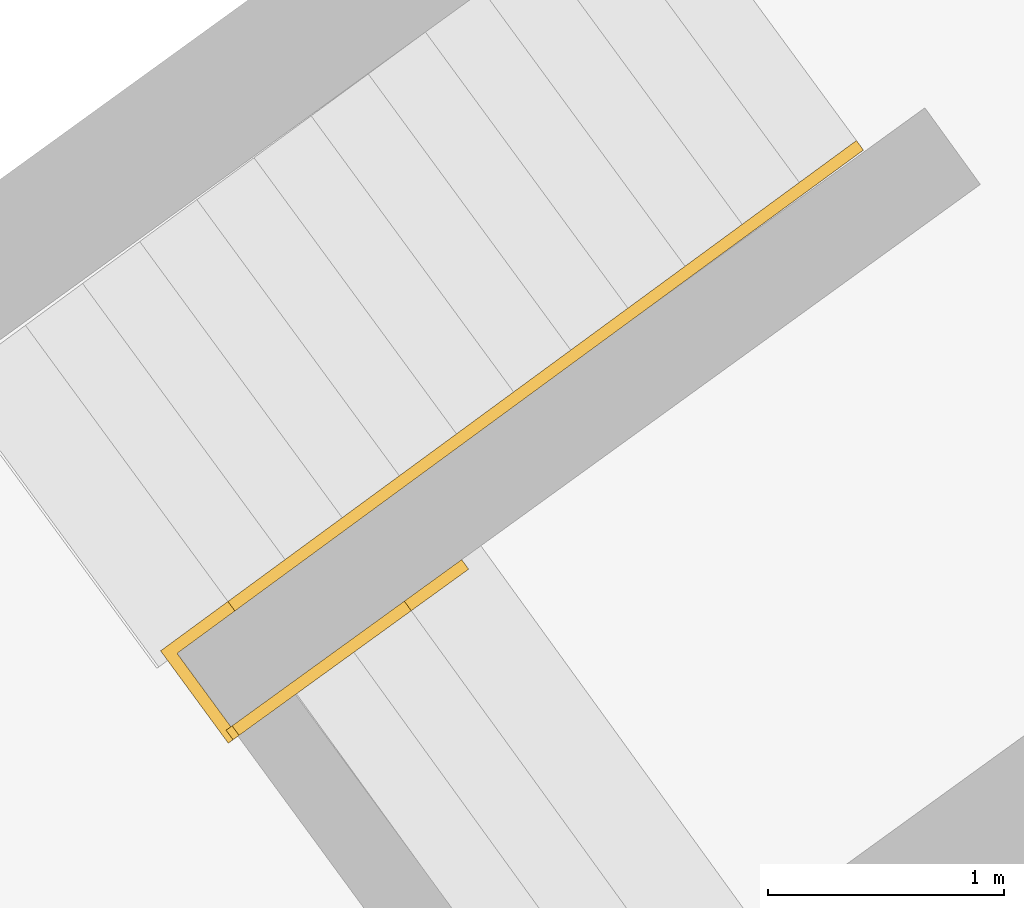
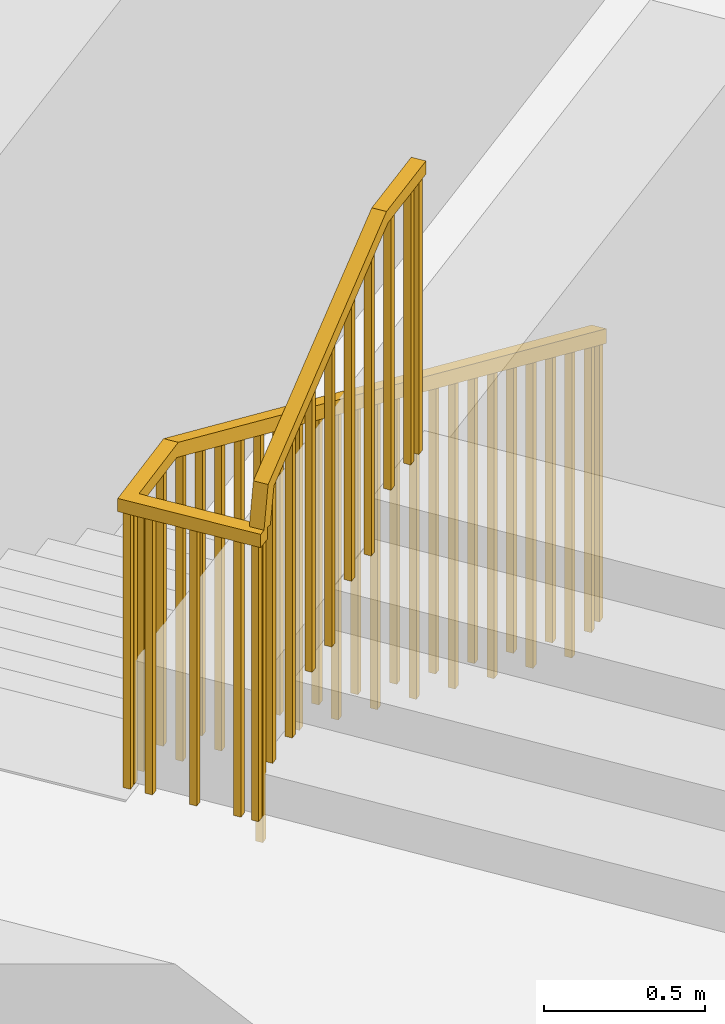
# One storey, part 112 of 112: 1 railing, 1 element without a shape of its own.
"""IFC2X3 building model written with IfcOpenShell, lengths in millimetres."""

from ifc_helpers import new_model, entity, si_unit, converted_unit, derived_unit, direction, frame, origin, place, context, subcontext, project, spatial, faceted_brep, material, element, aggregate, save


model = new_model("IFC2X3")

# Units and contexts
model_context = context("Model", 3, precision=0.01, world=origin(), true_north=direction((6.123031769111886e-17, 1.0)))
body_context = subcontext(model_context, "Body", "Model", "MODEL_VIEW")
ifc_project = project(units=[si_unit("LENGTHUNIT", "METRE", prefix="MILLI"), si_unit("AREAUNIT", "SQUARE_METRE"), si_unit("VOLUMEUNIT", "CUBIC_METRE"), converted_unit("PLANEANGLEUNIT", "DEGREE", entity("IfcRatioMeasure", 0.017453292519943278), si_unit("PLANEANGLEUNIT", "RADIAN"), dimensions=[0, 0, 0, 0, 0, 0, 0]), si_unit("MASSUNIT", "GRAM", prefix="KILO"), derived_unit("MASSDENSITYUNIT", [(si_unit("MASSUNIT", "GRAM", prefix="KILO"), 1), (si_unit("LENGTHUNIT", "METRE"), -3)]), derived_unit("MOMENTOFINERTIAUNIT", [(si_unit("LENGTHUNIT", "METRE"), 4)]), si_unit("TIMEUNIT", "SECOND"), si_unit("FREQUENCYUNIT", "HERTZ"), si_unit("THERMODYNAMICTEMPERATUREUNIT", "DEGREE_CELSIUS"), derived_unit("THERMALTRANSMITTANCEUNIT", [(si_unit("MASSUNIT", "GRAM", prefix="KILO"), 1), (si_unit("THERMODYNAMICTEMPERATUREUNIT", "KELVIN"), -1), (si_unit("TIMEUNIT", "SECOND"), -3)]), derived_unit("THERMALCONDUCTANCEUNIT", [(si_unit("MASSUNIT", "GRAM", prefix="KILO"), 1), (si_unit("LENGTHUNIT", "METRE"), 1), (si_unit("THERMODYNAMICTEMPERATUREUNIT", "KELVIN"), -1), (si_unit("TIMEUNIT", "SECOND"), -3)]), derived_unit("VOLUMETRICFLOWRATEUNIT", [(si_unit("LENGTHUNIT", "METRE"), 3), (si_unit("TIMEUNIT", "SECOND"), -1)]), derived_unit("MASSFLOWRATEUNIT", [(si_unit("MASSUNIT", "GRAM", prefix="KILO"), 1), (si_unit("TIMEUNIT", "SECOND"), -1)]), derived_unit("ROTATIONALFREQUENCYUNIT", [(si_unit("TIMEUNIT", "SECOND"), -1)]), si_unit("ELECTRICCURRENTUNIT", "AMPERE"), si_unit("ELECTRICVOLTAGEUNIT", "VOLT"), si_unit("POWERUNIT", "WATT"), converted_unit("FORCEUNIT", "KIP", entity("IfcRatioMeasure", 2.088543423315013e-05), si_unit("FORCEUNIT", "NEWTON"), dimensions=[1, 1, -2, 0, 0, 0, 0]), si_unit("ILLUMINANCEUNIT", "LUX"), si_unit("LUMINOUSFLUXUNIT", "LUMEN"), si_unit("LUMINOUSINTENSITYUNIT", "CANDELA"), derived_unit("USERDEFINED", [(si_unit("MASSUNIT", "GRAM", prefix="KILO"), -1), (si_unit("LENGTHUNIT", "METRE"), -2), (si_unit("TIMEUNIT", "SECOND"), 3), (si_unit("LUMINOUSFLUXUNIT", "LUMEN"), 1)]), derived_unit("USERDEFINED", [(si_unit("MASSUNIT", "GRAM", prefix="KILO"), 1), (si_unit("LENGTHUNIT", "METRE"), 3), (si_unit("TIMEUNIT", "SECOND"), -3), (si_unit("ELECTRICCURRENTUNIT", "AMPERE"), -2)]), derived_unit("USERDEFINED", [(si_unit("LENGTHUNIT", "METRE"), 2), (si_unit("TIMEUNIT", "SECOND"), -2)]), derived_unit("SOUNDPOWERUNIT", [(si_unit("MASSUNIT", "GRAM", prefix="KILO"), 1), (si_unit("LENGTHUNIT", "METRE"), 2), (si_unit("TIMEUNIT", "SECOND"), -3)]), derived_unit("SOUNDPRESSUREUNIT", [(si_unit("MASSUNIT", "GRAM", prefix="KILO"), 1), (si_unit("LENGTHUNIT", "METRE"), -1), (si_unit("TIMEUNIT", "SECOND"), -2)]), derived_unit("LINEARVELOCITYUNIT", [(si_unit("LENGTHUNIT", "METRE"), 1), (si_unit("TIMEUNIT", "SECOND"), -1)]), si_unit("PRESSUREUNIT", "PASCAL"), derived_unit("USERDEFINED", [(si_unit("LENGTHUNIT", "METRE"), -2), (si_unit("MASSUNIT", "GRAM", prefix="KILO"), 1), (si_unit("TIMEUNIT", "SECOND"), -2)]), derived_unit("LINEARFORCEUNIT", [(si_unit("MASSUNIT", "GRAM", prefix="KILO"), 1), (si_unit("LENGTHUNIT", "METRE"), 1), (si_unit("TIMEUNIT", "SECOND"), -2), (si_unit("LENGTHUNIT", "METRE"), -1)]), derived_unit("PLANARFORCEUNIT", [(si_unit("MASSUNIT", "GRAM", prefix="KILO"), 1), (si_unit("LENGTHUNIT", "METRE"), 1), (si_unit("TIMEUNIT", "SECOND"), -2), (si_unit("LENGTHUNIT", "METRE"), -2)]), derived_unit("SPECIFICHEATCAPACITYUNIT", [(si_unit("LENGTHUNIT", "METRE"), 2), (si_unit("TIMEUNIT", "SECOND"), -2), (si_unit("THERMODYNAMICTEMPERATUREUNIT", "KELVIN"), -1)]), derived_unit("VAPORPERMEABILITYUNIT", [(si_unit("TIMEUNIT", "SECOND"), 1), (si_unit("LENGTHUNIT", "METRE"), -1)]), derived_unit("DYNAMICVISCOSITYUNIT", [(si_unit("MASSUNIT", "GRAM", prefix="KILO"), 1), (si_unit("LENGTHUNIT", "METRE"), -1), (si_unit("TIMEUNIT", "SECOND"), -1)]), derived_unit("THERMALEXPANSIONCOEFFICIENTUNIT", [(si_unit("THERMODYNAMICTEMPERATUREUNIT", "KELVIN"), -1)])], contexts=[model_context])

# Site, building, storey
site_placement = place(None, frame((0.0, 0.0, 0.0), z_axis=(0.0, 0.0, 1.0), x_axis=(0.8191520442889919, 0.5735764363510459, 0.0)))
site = spatial("IfcSite", under=ifc_project, at=site_placement, Name="Default", CompositionType="ELEMENT")
building_placement = place(site_placement, origin())
building = spatial("IfcBuilding", under=site, at=building_placement, CompositionType="ELEMENT")
storey_placement = place(building_placement, frame((0.0, 0.0, -3600.0)))
storey = spatial("IfcBuildingStorey", under=building, at=storey_placement, Name="0.UG -3.60", CompositionType="ELEMENT", Elevation=-3600.0000000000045)

# Stair, railing
stair_placement = place(storey_placement, origin())
stair = element("IfcStair", 1, at=stair_placement, inside=storey, Name="Precast Stair:Stair", ObjectType="Precast Stair:Stair_CJC_KH", ShapeType="NOTDEFINED")
ifc_material = material(Name="<Unnamed>")
railing_placement = place(stair_placement, frame((-189707.49799371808, 195594.30919511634, 153.1250000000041)))
railing = element("IfcRailing", 2, at=railing_placement, material=ifc_material, Name="Railing:1100mm", ObjectType="Railing:1100mm", PredefinedType="NOTDEFINED", context=body_context, shape_type="Brep", body=[
    faceted_brep([(1179.0214089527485, 30.897532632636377, 3346.875), (1178.6278448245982, 55.894434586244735, 3346.875), (1178.6278448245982, 55.89443458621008, 2296.8750000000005), (1179.0214089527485, 30.897532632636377, 2296.8750000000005), (1203.6247467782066, 56.287998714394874, 3346.875), (1203.624746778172, 56.287998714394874, 2296.8750000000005), (1204.0183109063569, 31.291096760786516, 3346.875), (1204.0183109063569, 31.291096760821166, 2296.8750000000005)], [[[0, 1, 2, 3]], [[1, 4, 5, 2]], [[4, 6, 7, 5]], [[3, 7, 6, 0]], [[0, 6, 4, 1]], [[2, 5, 7, 3]]]),
    faceted_brep([(1029.0399972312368, 28.536147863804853, 3346.875), (1028.6464331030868, 53.533049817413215, 3346.875), (1028.6464331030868, 53.53304981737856, 2296.8750000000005), (1029.0399972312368, 28.536147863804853, 2296.8750000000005), (1053.6433350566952, 53.92661394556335, 3346.875), (1053.6433350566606, 53.92661394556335, 2296.8750000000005), (1054.0368991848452, 28.929711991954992, 3346.875), (1054.0368991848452, 28.929711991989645, 2296.8750000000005)], [[[0, 1, 2, 3]], [[1, 4, 5, 2]], [[4, 6, 7, 5]], [[3, 7, 6, 0]], [[0, 6, 4, 1]], [[2, 5, 7, 3]]]),
    faceted_brep([(879.0585855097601, 26.17476309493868, 3296.0769855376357), (878.6650213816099, 51.17166504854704, 3296.0769855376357), (878.6650213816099, 51.17166504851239, 2143.7500000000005), (879.0585855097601, 26.17476309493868, 2143.7500000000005), (903.6619233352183, 51.56522917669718, 3308.837402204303), (903.6619233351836, 51.56522917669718, 2143.7500000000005), (904.0554874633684, 26.56832722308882, 3308.837402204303), (904.0554874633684, 26.56832722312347, 2143.7500000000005)], [[[0, 1, 2, 3]], [[1, 4, 5, 2]], [[4, 6, 7, 5]], [[3, 7, 6, 0]], [[0, 6, 4, 1]], [[2, 5, 7, 3]]]),
    faceted_brep([(729.0771737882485, 23.81337832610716, 3219.514485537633), (728.6836096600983, 48.81028027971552, 3219.5144855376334), (728.6836096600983, 48.81028027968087, 2143.7500000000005), (729.0771737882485, 23.81337832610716, 2143.7500000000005), (753.6805116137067, 49.20384440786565, 3232.2749022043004), (753.680511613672, 49.20384440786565, 2143.7500000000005), (754.0740757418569, 24.206942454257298, 3232.2749022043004), (754.0740757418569, 24.206942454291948, 2143.7500000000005)], [[[0, 1, 2, 3]], [[1, 4, 5, 2]], [[4, 6, 7, 5]], [[3, 7, 6, 0]], [[0, 6, 4, 1]], [[2, 5, 7, 3]]]),
    faceted_brep([(579.0957620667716, 21.45199355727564, 3142.951985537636), (578.7021979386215, 46.44889551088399, 3142.951985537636), (578.7021979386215, 46.44889551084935, 1990.6250000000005), (579.0957620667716, 21.45199355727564, 1990.6250000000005), (603.6990998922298, 46.84245963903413, 3155.7124022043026), (603.6990998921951, 46.84245963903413, 1990.6250000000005), (604.09266402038, 21.845557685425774, 3155.7124022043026), (604.09266402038, 21.845557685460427, 1990.6250000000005)], [[[0, 1, 2, 3]], [[1, 4, 5, 2]], [[4, 6, 7, 5]], [[3, 7, 6, 0]], [[0, 6, 4, 1]], [[2, 5, 7, 3]]]),
    faceted_brep([(429.11435034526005, 19.090608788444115, 3066.389485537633), (428.7207862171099, 44.08751074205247, 3066.389485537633), (428.7207862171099, 44.08751074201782, 1990.6250000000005), (429.11435034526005, 19.090608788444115, 1990.6250000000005), (453.71768817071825, 44.48107487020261, 3079.1499022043), (453.71768817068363, 44.48107487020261, 1990.6250000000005), (454.1112522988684, 19.484172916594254, 3079.1499022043), (454.1112522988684, 19.484172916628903, 1990.6250000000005)], [[[0, 1, 2, 3]], [[1, 4, 5, 2]], [[4, 6, 7, 5]], [[3, 7, 6, 0]], [[0, 6, 4, 1]], [[2, 5, 7, 3]]]),
    faceted_brep([(279.1329386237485, 16.72922401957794, 2989.826985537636), (278.7393744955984, 41.7261259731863, 2989.826985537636), (278.7393744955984, 41.726125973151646, 1837.5000000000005), (279.1329386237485, 16.72922401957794, 1837.5000000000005), (303.73627644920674, 42.11969010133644, 3002.5874022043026), (303.73627644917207, 42.11969010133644, 1837.5000000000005), (304.12984057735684, 17.12278814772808, 3002.5874022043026), (304.12984057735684, 17.12278814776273, 1837.5000000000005)], [[[0, 1, 2, 3]], [[1, 4, 5, 2]], [[4, 6, 7, 5]], [[3, 7, 6, 0]], [[0, 6, 4, 1]], [[2, 5, 7, 3]]]),
    faceted_brep([(129.1515269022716, 14.367839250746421, 2913.264485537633), (128.75796277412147, 39.36474120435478, 2913.264485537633), (128.75796277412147, 39.364741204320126, 1837.5000000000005), (129.1515269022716, 14.367839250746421, 1837.5000000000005), (153.75486472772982, 39.75830533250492, 2926.0249022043), (153.75486472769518, 39.75830533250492, 1837.5000000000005), (154.14842885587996, 14.761403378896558, 2926.0249022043), (154.14842885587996, 14.76140337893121, 1837.5000000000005)], [[[0, 1, 2, 3]], [[1, 4, 5, 2]], [[4, 6, 7, 5]], [[3, 7, 6, 0]], [[0, 6, 4, 1]], [[2, 5, 7, 3]]]),
    faceted_brep([(20.98251823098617, 97.52522877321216, 2734.375), (45.97652342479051, 98.07268139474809, 2734.375), (45.97652342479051, 98.07268139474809, 1684.3750000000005), (20.98251823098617, 97.52522877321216, 1684.3750000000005), (46.523976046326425, 73.07867620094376, 2734.375), (46.523976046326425, 73.07867620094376, 1684.3750000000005), (21.529970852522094, 72.53122357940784, 2734.375), (21.529970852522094, 72.53122357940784, 1684.3750000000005)], [[[0, 1, 2, 3]], [[1, 4, 5, 2]], [[4, 6, 7, 5]], [[3, 7, 6, 0]], [[0, 6, 4, 1]], [[2, 5, 7, 3]]]),
    faceted_brep([(17.697802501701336, 247.48925993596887, 2734.375), (42.691807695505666, 248.03671255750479, 2734.375), (42.691807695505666, 248.03671255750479, 1684.3750000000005), (17.697802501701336, 247.48925993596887, 1684.3750000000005), (43.23926031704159, 223.04270736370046, 2734.375), (43.23926031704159, 223.04270736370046, 1684.3750000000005), (18.245255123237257, 222.49525474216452, 2734.375), (18.245255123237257, 222.49525474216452, 1684.3750000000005)], [[[0, 1, 2, 3]], [[1, 4, 5, 2]], [[4, 6, 7, 5]], [[3, 7, 6, 0]], [[0, 6, 4, 1]], [[2, 5, 7, 3]]]),
    faceted_brep([(14.4130867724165, 397.4532910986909, 2734.375), (39.40709196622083, 398.0007437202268, 2734.375), (39.40709196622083, 398.0007437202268, 1684.3750000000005), (14.4130867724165, 397.4532910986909, 1684.3750000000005), (39.95454458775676, 373.0067385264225, 2734.375), (39.95454458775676, 373.0067385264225, 1684.3750000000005), (14.960539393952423, 372.4592859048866, 2734.375), (14.960539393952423, 372.4592859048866, 1684.3750000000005)], [[[0, 1, 2, 3]], [[1, 4, 5, 2]], [[4, 6, 7, 5]], [[3, 7, 6, 0]], [[0, 6, 4, 1]], [[2, 5, 7, 3]]]),
    faceted_brep([(141.3846297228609, 475.2523828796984, 2734.3749999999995), (141.9320823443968, 450.2583776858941, 2734.3749999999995), (141.9320823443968, 450.2583776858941, 1684.3750000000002), (141.3846297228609, 475.2523828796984, 1684.3750000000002), (116.93807715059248, 449.71092506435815, 2734.3749999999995), (116.93807715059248, 449.71092506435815, 1684.3750000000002), (116.39062452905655, 474.7049302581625, 2734.3749999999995), (116.39062452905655, 474.7049302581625, 1684.3750000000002)], [[[0, 1, 2, 3]], [[1, 4, 5, 2]], [[4, 6, 7, 5]], [[3, 7, 6, 0]], [[0, 6, 4, 1]], [[2, 5, 7, 3]]]),
    faceted_brep([(291.34866088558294, 478.5370986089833, 2734.3749999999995), (291.89611350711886, 453.54309341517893, 2734.3749999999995), (291.89611350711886, 453.54309341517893, 1684.3750000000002), (291.34866088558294, 478.5370986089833, 1684.3750000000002), (266.9021083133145, 452.995640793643, 2734.3749999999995), (266.9021083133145, 452.995640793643, 1684.3750000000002), (266.3546556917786, 477.9896459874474, 2734.3749999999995), (266.3546556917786, 477.9896459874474, 1684.3750000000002)], [[[0, 1, 2, 3]], [[1, 4, 5, 2]], [[4, 6, 7, 5]], [[3, 7, 6, 0]], [[0, 6, 4, 1]], [[2, 5, 7, 3]]]),
    faceted_brep([(441.312692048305, 481.8218143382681, 2683.5769855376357), (441.8601446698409, 456.82780914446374, 2683.5769855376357), (441.8601446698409, 456.82780914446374, 1531.2500000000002), (441.312692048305, 481.8218143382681, 1531.2500000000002), (416.86613947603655, 456.28035652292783, 2696.3374022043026), (416.86613947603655, 456.28035652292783, 1531.2500000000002), (416.31868685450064, 481.2743617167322, 2696.3374022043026), (416.31868685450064, 481.2743617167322, 1531.2500000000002)], [[[0, 1, 2, 3]], [[1, 4, 5, 2]], [[4, 6, 7, 5]], [[3, 7, 6, 0]], [[0, 6, 4, 1]], [[2, 5, 7, 3]]]),
    faceted_brep([(591.2767232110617, 485.10653006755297, 2607.014485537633), (591.8241758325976, 460.1125248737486, 2607.0144855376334), (591.8241758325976, 460.1125248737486, 1531.2500000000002), (591.2767232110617, 485.10653006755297, 1531.2500000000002), (566.8301706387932, 459.5650722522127, 2619.7749022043), (566.8301706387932, 459.5650722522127, 1531.2500000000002), (566.2827180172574, 484.559077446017, 2619.7749022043), (566.2827180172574, 484.559077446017, 1531.2500000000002)], [[[0, 1, 2, 3]], [[1, 4, 5, 2]], [[4, 6, 7, 5]], [[3, 7, 6, 0]], [[0, 6, 4, 1]], [[2, 5, 7, 3]]]),
    faceted_brep([(741.2407543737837, 488.3912457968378, 2530.4519855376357), (741.7882069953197, 463.3972406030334, 2530.4519855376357), (741.7882069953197, 463.3972406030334, 1378.1250000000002), (741.2407543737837, 488.3912457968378, 1378.1250000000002), (716.7942018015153, 462.8497879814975, 2543.2124022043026), (716.7942018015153, 462.8497879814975, 1378.1250000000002), (716.2467491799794, 487.84379317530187, 2543.2124022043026), (716.2467491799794, 487.84379317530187, 1378.1250000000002)], [[[0, 1, 2, 3]], [[1, 4, 5, 2]], [[4, 6, 7, 5]], [[3, 7, 6, 0]], [[0, 6, 4, 1]], [[2, 5, 7, 3]]]),
    faceted_brep([(891.2047855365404, 491.6759615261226, 2453.8894855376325), (891.7522381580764, 466.6819563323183, 2453.889485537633), (891.7522381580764, 466.6819563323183, 1378.1250000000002), (891.2047855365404, 491.6759615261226, 1378.1250000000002), (866.758232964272, 466.1345037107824, 2466.6499022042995), (866.758232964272, 466.1345037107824, 1378.1250000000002), (866.210780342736, 491.1285089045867, 2466.6499022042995), (866.210780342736, 491.1285089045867, 1378.1250000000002)], [[[0, 1, 2, 3]], [[1, 4, 5, 2]], [[4, 6, 7, 5]], [[3, 7, 6, 0]], [[0, 6, 4, 1]], [[2, 5, 7, 3]]]),
    faceted_brep([(1041.1688166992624, 494.9606772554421, 2377.3269855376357), (1041.7162693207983, 469.9666720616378, 2377.3269855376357), (1041.7162693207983, 469.9666720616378, 1225.0), (1041.1688166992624, 494.9606772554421, 1225.0), (1016.7222641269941, 469.41921944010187, 2390.0874022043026), (1016.7222641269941, 469.41921944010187, 1225.0), (1016.1748115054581, 494.41322463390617, 2390.0874022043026), (1016.1748115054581, 494.41322463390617, 1225.0)], [[[0, 1, 2, 3]], [[1, 4, 5, 2]], [[4, 6, 7, 5]], [[3, 7, 6, 0]], [[0, 6, 4, 1]], [[2, 5, 7, 3]]]),
    faceted_brep([(1191.1328478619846, 498.24539298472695, 2300.764485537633), (1191.6803004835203, 473.2513877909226, 2300.764485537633), (1191.6803004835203, 473.2513877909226, 1225.0), (1191.1328478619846, 498.24539298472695, 1225.0), (1166.686295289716, 472.7039351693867, 2313.5249022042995), (1166.686295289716, 472.7039351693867, 1225.0), (1166.1388426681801, 497.69794036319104, 2313.5249022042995), (1166.1388426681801, 497.69794036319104, 1225.0)], [[[0, 1, 2, 3]], [[1, 4, 5, 2]], [[4, 6, 7, 5]], [[3, 7, 6, 0]], [[0, 6, 4, 1]], [[2, 5, 7, 3]]]),
    faceted_brep([(1341.0968790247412, 501.53010871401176, 2224.2019855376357), (1341.6443316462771, 476.53610352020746, 2224.2019855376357), (1341.6443316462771, 476.53610352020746, 1071.875), (1341.0968790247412, 501.53010871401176, 1071.875), (1316.6503264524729, 475.9886508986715, 2236.962402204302), (1316.6503264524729, 475.9886508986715, 1071.875), (1316.102873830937, 500.98265609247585, 2236.962402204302), (1316.102873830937, 500.98265609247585, 1071.875)], [[[0, 1, 2, 3]], [[1, 4, 5, 2]], [[4, 6, 7, 5]], [[3, 7, 6, 0]], [[0, 6, 4, 1]], [[2, 5, 7, 3]]]),
    faceted_brep([(1491.0609101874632, 504.81482444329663, 2147.639485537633), (1491.6083628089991, 479.8208192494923, 2147.639485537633), (1491.6083628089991, 479.8208192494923, 1071.875), (1491.0609101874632, 504.81482444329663, 1071.875), (1466.6143576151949, 479.27336662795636, 2160.3999022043), (1466.6143576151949, 479.27336662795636, 1071.875), (1466.066904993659, 504.26737182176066, 2160.3999022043), (1466.066904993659, 504.26737182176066, 1071.875)], [[[0, 1, 2, 3]], [[1, 4, 5, 2]], [[4, 6, 7, 5]], [[3, 7, 6, 0]], [[0, 6, 4, 1]], [[2, 5, 7, 3]]]),
    faceted_brep([(1641.0249413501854, 508.09954017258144, 2071.0769855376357), (1641.572393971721, 483.1055349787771, 2071.0769855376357), (1641.572393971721, 483.1055349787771, 918.7500000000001), (1641.0249413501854, 508.09954017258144, 918.7500000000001), (1616.5783887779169, 482.5580823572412, 2083.8374022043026), (1616.5783887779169, 482.5580823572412, 918.7500000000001), (1616.030936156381, 507.55208755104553, 2083.8374022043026), (1616.030936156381, 507.55208755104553, 918.7500000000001)], [[[0, 1, 2, 3]], [[1, 4, 5, 2]], [[4, 6, 7, 5]], [[3, 7, 6, 0]], [[0, 6, 4, 1]], [[2, 5, 7, 3]]]),
    faceted_brep([(1790.988972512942, 511.38425590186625, 1994.5144855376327), (1791.536425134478, 486.39025070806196, 1994.514485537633), (1791.536425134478, 486.39025070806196, 918.7500000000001), (1790.988972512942, 511.38425590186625, 918.7500000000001), (1766.5424199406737, 485.84279808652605, 2007.2749022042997), (1766.5424199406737, 485.84279808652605, 918.7500000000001), (1765.9949673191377, 510.83680328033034, 2007.2749022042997), (1765.9949673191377, 510.83680328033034, 918.7500000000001)], [[[0, 1, 2, 3]], [[1, 4, 5, 2]], [[4, 6, 7, 5]], [[3, 7, 6, 0]], [[0, 6, 4, 1]], [[2, 5, 7, 3]]]),
    faceted_brep([(1940.9530036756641, 514.6689716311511, 1917.9519855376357), (1941.5004562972, 489.67496643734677, 1917.9519855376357), (1941.5004562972, 489.67496643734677, 765.6250000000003), (1940.9530036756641, 514.6689716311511, 765.6250000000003), (1916.5064511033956, 489.12751381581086, 1930.7124022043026), (1916.5064511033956, 489.12751381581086, 765.6250000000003), (1915.9589984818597, 514.1215190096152, 1930.7124022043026), (1915.9589984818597, 514.1215190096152, 765.6250000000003)], [[[0, 1, 2, 3]], [[1, 4, 5, 2]], [[4, 6, 7, 5]], [[3, 7, 6, 0]], [[0, 6, 4, 1]], [[2, 5, 7, 3]]]),
    faceted_brep([(2090.917034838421, 517.953687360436, 1841.3894855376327), (2091.4644874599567, 492.95968216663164, 1841.3894855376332), (2091.4644874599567, 492.95968216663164, 765.6250000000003), (2090.917034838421, 517.953687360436, 765.6250000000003), (2066.4704822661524, 492.41222954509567, 1854.1499022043), (2066.4704822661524, 492.41222954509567, 765.6250000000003), (2065.9230296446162, 517.4062347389, 1854.1499022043), (2065.9230296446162, 517.4062347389, 765.6250000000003)], [[[0, 1, 2, 3]], [[1, 4, 5, 2]], [[4, 6, 7, 5]], [[3, 7, 6, 0]], [[0, 6, 4, 1]], [[2, 5, 7, 3]]]),
    faceted_brep([(2240.8810660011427, 521.2384030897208, 1764.826985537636), (2241.428518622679, 496.24439789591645, 1764.826985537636), (2241.428518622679, 496.24439789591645, 612.5000000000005), (2240.8810660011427, 521.2384030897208, 612.5000000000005), (2216.434513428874, 495.69694527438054, 1777.5874022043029), (2216.434513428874, 495.69694527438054, 612.5000000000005), (2215.8870608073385, 520.6909504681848, 1777.5874022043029), (2215.8870608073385, 520.6909504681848, 612.5000000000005)], [[[0, 1, 2, 3]], [[1, 4, 5, 2]], [[4, 6, 7, 5]], [[3, 7, 6, 0]], [[0, 6, 4, 1]], [[2, 5, 7, 3]]]),
    faceted_brep([(2390.845097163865, 524.5231188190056, 1688.264485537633), (2391.3925497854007, 499.52911362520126, 1688.2644855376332), (2391.3925497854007, 499.52911362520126, 612.5000000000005), (2390.845097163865, 524.5231188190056, 612.5000000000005), (2366.3985445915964, 498.98166100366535, 1701.0249022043), (2366.3985445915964, 498.98166100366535, 612.5000000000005), (2365.8510919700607, 523.9756661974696, 1701.0249022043), (2365.8510919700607, 523.9756661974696, 612.5000000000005)], [[[0, 1, 2, 3]], [[1, 4, 5, 2]], [[4, 6, 7, 5]], [[3, 7, 6, 0]], [[0, 6, 4, 1]], [[2, 5, 7, 3]]]),
    faceted_brep([(2540.8091283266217, 527.8078345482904, 1611.7019855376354), (2541.3565809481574, 502.81382935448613, 1611.7019855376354), (2541.3565809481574, 502.81382935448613, 459.37500000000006), (2540.8091283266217, 527.8078345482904, 459.37500000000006), (2516.362575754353, 502.2663767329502, 1624.4624022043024), (2516.362575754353, 502.2663767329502, 459.37500000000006), (2515.815123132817, 527.2603819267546, 1624.4624022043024), (2515.815123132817, 527.2603819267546, 459.37500000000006)], [[[0, 1, 2, 3]], [[1, 4, 5, 2]], [[4, 6, 7, 5]], [[3, 7, 6, 0]], [[0, 6, 4, 1]], [[2, 5, 7, 3]]]),
    faceted_brep([(2690.7731594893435, 531.0925502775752, 1535.1394855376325), (2691.3206121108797, 506.09854508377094, 1535.139485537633), (2691.3206121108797, 506.09854508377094, 459.37500000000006), (2690.7731594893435, 531.0925502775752, 459.37500000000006), (2666.326606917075, 505.55109246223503, 1547.8999022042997), (2666.326606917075, 505.55109246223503, 459.37500000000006), (2665.7791542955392, 530.5450976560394, 1547.8999022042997), (2665.7791542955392, 530.5450976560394, 459.37500000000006)], [[[0, 1, 2, 3]], [[1, 4, 5, 2]], [[4, 6, 7, 5]], [[3, 7, 6, 0]], [[0, 6, 4, 1]], [[2, 5, 7, 3]]]),
    faceted_brep([(2840.7371906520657, 534.3772660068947, 1458.5769855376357), (2841.2846432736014, 509.38326081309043, 1458.5769855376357), (2841.2846432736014, 509.38326081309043, 306.2500000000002), (2840.7371906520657, 534.3772660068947, 306.2500000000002), (2816.290638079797, 508.8358081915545, 1471.3374022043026), (2816.290638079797, 508.8358081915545, 306.2500000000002), (2815.7431854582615, 533.8298133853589, 1471.3374022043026), (2815.7431854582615, 533.8298133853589, 306.2500000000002)], [[[0, 1, 2, 3]], [[1, 4, 5, 2]], [[4, 6, 7, 5]], [[3, 7, 6, 0]], [[0, 6, 4, 1]], [[2, 5, 7, 3]]]),
    faceted_brep([(2990.7012218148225, 537.6619817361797, 1382.0144855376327), (2991.248674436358, 512.6679765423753, 1382.014485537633), (2991.248674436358, 512.6679765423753, 306.2500000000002), (2990.7012218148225, 537.6619817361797, 306.2500000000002), (2966.254669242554, 512.1205239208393, 1394.7749022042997), (2966.254669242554, 512.1205239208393, 306.2500000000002), (2965.707216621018, 537.1145291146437, 1394.7749022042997), (2965.707216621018, 537.1145291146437, 306.2500000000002)], [[[0, 1, 2, 3]], [[1, 4, 5, 2]], [[4, 6, 7, 5]], [[3, 7, 6, 0]], [[0, 6, 4, 1]], [[2, 5, 7, 3]]]),
    faceted_brep([(3140.6652529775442, 540.9466974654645, 1305.451985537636), (3141.2127055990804, 515.9526922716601, 1305.451985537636), (3141.2127055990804, 515.9526922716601, 153.12500000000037), (3140.6652529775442, 540.9466974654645, 153.12500000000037), (3116.2187004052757, 515.4052396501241, 1318.2124022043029), (3116.2187004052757, 515.4052396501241, 153.12500000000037), (3115.67124778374, 540.3992448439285, 1318.2124022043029), (3115.67124778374, 540.3992448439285, 153.12500000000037)], [[[0, 1, 2, 3]], [[1, 4, 5, 2]], [[4, 6, 7, 5]], [[3, 7, 6, 0]], [[0, 6, 4, 1]], [[2, 5, 7, 3]]]),
    faceted_brep([(3290.629284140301, 544.2314131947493, 1228.889485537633), (3291.1767367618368, 519.2374080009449, 1228.8894855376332), (3291.1767367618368, 519.2374080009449, 153.12500000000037), (3290.629284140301, 544.2314131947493, 153.12500000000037), (3266.1827315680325, 518.6899553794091, 1241.6499022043), (3266.1827315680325, 518.6899553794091, 153.12500000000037), (3265.635278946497, 543.6839605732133, 1241.6499022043), (3265.635278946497, 543.6839605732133, 153.12500000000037)], [[[0, 1, 2, 3]], [[1, 4, 5, 2]], [[4, 6, 7, 5]], [[3, 7, 6, 0]], [[0, 6, 4, 1]], [[2, 5, 7, 3]]]),
    faceted_brep([(3440.5933153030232, 547.5161289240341, 1152.3269855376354), (3441.140767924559, 522.5221237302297, 1152.3269855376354), (3441.140767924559, 522.5221237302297, 0.0), (3440.5933153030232, 547.5161289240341, 0.0), (3416.1467627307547, 521.9746711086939, 1165.0874022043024), (3416.1467627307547, 521.9746711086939, 0.0), (3415.5993101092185, 546.9686763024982, 1165.0874022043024), (3415.5993101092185, 546.9686763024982, 0.0)], [[[0, 1, 2, 3]], [[1, 4, 5, 2]], [[4, 6, 7, 5]], [[3, 7, 6, 0]], [[0, 6, 4, 1]], [[2, 5, 7, 3]]]),
    faceted_brep([(3590.557346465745, 550.8008446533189, 1075.7644855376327), (3591.104799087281, 525.8068394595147, 1075.7644855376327), (3591.104799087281, 525.8068394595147, 0.0), (3590.557346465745, 550.8008446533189, 0.0), (3566.1107938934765, 525.2593868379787, 1088.5249022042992), (3566.1107938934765, 525.2593868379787, 0.0), (3565.5633412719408, 550.253392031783, 1088.5249022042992), (3565.5633412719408, 550.253392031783, 0.0)], [[[0, 1, 2, 3]], [[1, 4, 5, 2]], [[4, 6, 7, 5]], [[3, 7, 6, 0]], [[0, 6, 4, 1]], [[2, 5, 7, 3]]]),
    faceted_brep([(54.160821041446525, 13.187146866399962, 2788.60286610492), (79.15772299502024, 13.580710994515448, 2788.60286610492), (78.76415886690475, 38.577612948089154, 2788.60286610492), (53.76725691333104, 38.18404881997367, 2788.60286610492), (54.160821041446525, 13.187146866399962, 1584.3750000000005), (53.76725691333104, 38.18404881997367, 1584.3750000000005), (78.76415886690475, 38.577612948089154, 1584.3750000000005), (79.15772299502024, 13.580710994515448, 1584.3750000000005)], [[[0, 1, 2, 3]], [[4, 5, 6, 7]], [[3, 5, 4, 0]], [[2, 6, 5, 3]], [[1, 7, 6, 2]], [[0, 4, 7, 1]]]),
    faceted_brep([(22.29483382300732, 37.61132676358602, 2734.375), (47.28883901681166, 38.158779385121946, 2734.375), (47.28883901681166, 38.158779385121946, 1684.3750000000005), (22.29483382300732, 37.61132676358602, 1684.3750000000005), (47.836291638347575, 13.16477419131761, 2734.375), (47.836291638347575, 13.16477419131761, 1684.3750000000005), (22.842286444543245, 12.617321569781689, 2734.375), (22.842286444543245, 12.617321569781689, 1684.3750000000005)], [[[0, 1, 2, 3]], [[1, 4, 5, 2]], [[4, 6, 7, 5]], [[3, 7, 6, 0]], [[0, 6, 4, 1]], [[2, 5, 7, 3]]]),
    faceted_brep([(37.76473410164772, 472.9827593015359, 2734.375), (38.31218672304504, 447.98875410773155, 2734.375), (38.312186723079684, 447.98875410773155, 1684.3750000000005), (37.76473410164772, 472.9827593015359, 1684.3750000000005), (13.318181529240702, 447.4413014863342, 2734.375), (13.318181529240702, 447.44130148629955, 1684.3750000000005), (12.770728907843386, 472.4353066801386, 2734.375), (12.770728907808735, 472.4353066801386, 1684.3750000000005)], [[[0, 1, 2, 3]], [[1, 4, 5, 2]], [[4, 6, 7, 5]], [[3, 7, 6, 0]], [[0, 6, 4, 1]], [[2, 5, 7, 3]]]),
    faceted_brep([(66.40261414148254, 473.610025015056, 2734.375), (66.95006676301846, 448.61601982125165, 2734.375), (66.95006676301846, 448.61601982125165, 1684.3750000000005), (66.40261414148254, 473.610025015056, 1684.3750000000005), (41.95606156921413, 448.06856719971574, 2734.375), (41.95606156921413, 448.06856719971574, 1684.3750000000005), (41.4086089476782, 473.0625723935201, 2734.375), (41.4086089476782, 473.0625723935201, 1684.3750000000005)], [[[0, 1, 2, 3]], [[1, 4, 5, 2]], [[4, 6, 7, 5]], [[3, 7, 6, 0]], [[0, 6, 4, 1]], [[2, 5, 7, 3]]]),
    faceted_brep([(1241.5136638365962, 31.881442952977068, 3346.875), (1241.1200997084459, 56.878344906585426, 3346.875), (1241.1200997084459, 56.87834490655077, 2296.8750000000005), (1241.5136638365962, 31.881442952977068, 2296.8750000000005), (1266.1170016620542, 57.271909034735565, 3346.875), (1266.1170016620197, 57.271909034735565, 2296.8750000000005), (1266.5105657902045, 32.27500708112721, 3346.875), (1266.5105657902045, 32.27500708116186, 2296.8750000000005)], [[[0, 1, 2, 3]], [[1, 4, 5, 2]], [[4, 6, 7, 5]], [[3, 7, 6, 0]], [[0, 6, 4, 1]], [[2, 5, 7, 3]]]),
    faceted_brep([(3653.0423594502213, 552.1694762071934, 1043.8634438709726), (3653.589812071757, 527.175471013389, 1043.8634438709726), (3653.589812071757, 527.175471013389, 0.0), (3653.0423594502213, 552.1694762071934, 0.0), (3628.595806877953, 526.6280183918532, 1056.6238605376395), (3628.595806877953, 526.6280183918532, 0.0), (3628.048354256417, 551.6220235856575, 1056.6238605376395), (3628.048354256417, 551.6220235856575, 0.0)], [[[0, 1, 2, 3]], [[1, 4, 5, 2]], [[4, 6, 7, 5]], [[3, 7, 6, 0]], [[0, 6, 4, 1]], [[2, 5, 7, 3]]]),
    faceted_brep([(3653.8635383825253, 514.6784684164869, 1100.0), (3653.8635383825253, 514.6784684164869, 1043.8634438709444), (3652.7686331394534, 564.6664788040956, 1043.8634438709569), (3652.7686331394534, 564.6664788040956, 1100.0), (354.65485280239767, 442.41472237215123, 2784.374999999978), (342.6350951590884, 442.15144932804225, 2734.374999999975), (341.5401899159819, 492.1394597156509, 2734.3749999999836), (353.5599475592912, 492.4027327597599, 2784.3749999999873), (54.726790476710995, 435.84529091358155, 2784.3749999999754), (54.726790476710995, 435.8452909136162, 2734.374999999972), (53.6318852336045, 485.8333013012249, 2734.3749999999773), (53.6318852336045, 485.8333013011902, 2784.374999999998), (51.08291563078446, 435.7654778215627, 2784.3749999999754), (51.08291563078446, 435.76547782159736, 2734.374999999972), (0.0, 484.65858296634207, 2734.3749999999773), (0.0, 484.65858296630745, 2784.374999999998), (60.61040143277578, 0.7871431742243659, 2784.374999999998), (10.615650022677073, 0.0, 2784.3749999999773), (10.615650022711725, 0.0, 2734.374999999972), (60.610401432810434, 0.7871431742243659, 2734.374999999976)], [[[0, 1, 2, 3]], [[1, 0, 4, 5]], [[2, 1, 5, 6]], [[3, 2, 6, 7]], [[0, 3, 7, 4]], [[5, 4, 8, 9]], [[6, 5, 9, 10]], [[7, 6, 10, 11]], [[4, 7, 11, 8]], [[9, 8, 12, 13]], [[10, 9, 13, 14]], [[11, 10, 14, 15]], [[8, 11, 15, 12]], [[16, 17, 18, 19]], [[13, 12, 16, 19]], [[14, 13, 19, 18]], [[15, 14, 18, 17]], [[12, 15, 17, 16]]]),
    faceted_brep([(34.67199860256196, 50.38495243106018, 2784.374999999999), (83.64665803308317, 51.15603475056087, 2774.3306898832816), (84.43378628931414, 1.1622308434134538, 2774.3306898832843), (35.459126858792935, 0.39114852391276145, 2784.3750000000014), (66.06892582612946, 50.87928186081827, 2937.4999999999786), (110.21334771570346, 51.574314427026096, 2903.898285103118), (111.00047597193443, 1.5805105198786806, 2903.8982851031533), (66.85605408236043, 0.885477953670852, 2937.5000000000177), (965.9573961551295, 65.04759047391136, 3396.874999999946), (977.9785468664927, 65.23685767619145, 3346.8749999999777), (978.7656751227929, 15.243053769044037, 3346.875000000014), (966.7445244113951, 15.05378656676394, 3396.8750000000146), (1265.9202195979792, 69.77036001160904, 3396.8749999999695), (1266.7073478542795, 19.776556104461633, 3396.874999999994), (1266.7073478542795, 19.77655610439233, 3346.874999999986), (1265.9202195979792, 69.77036001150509, 3346.874999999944)], [[[0, 1, 2, 3]], [[1, 0, 4, 5]], [[2, 1, 5, 6]], [[3, 2, 6, 7]], [[0, 3, 7, 4]], [[5, 4, 8, 9]], [[6, 5, 9, 10]], [[7, 6, 10, 11]], [[4, 7, 11, 8]], [[12, 13, 14, 15]], [[9, 8, 12, 15]], [[10, 9, 15, 14]], [[11, 10, 14, 13]], [[8, 11, 13, 12]]]),
])
aggregate(stair, [railing])

save(model, "model.ifc")
